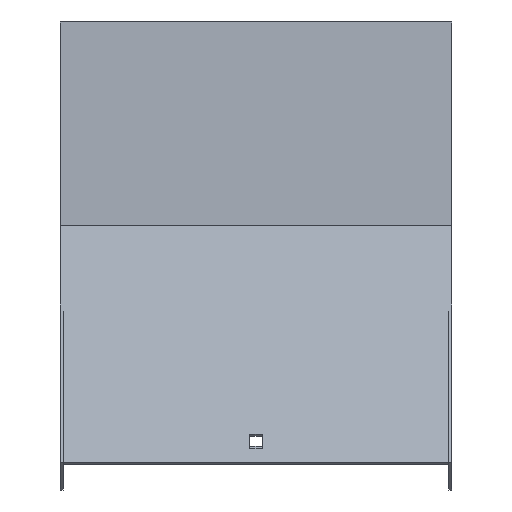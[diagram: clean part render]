
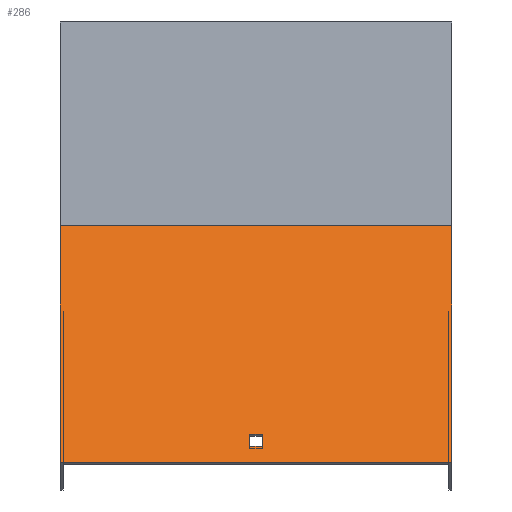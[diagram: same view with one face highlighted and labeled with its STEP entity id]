
A CAD part, top view. The second image highlights one B-rep face of the part: STEP entity #286.
In plain terms, the highlighted planar face has unit normal (0, 0.707, 0.707).
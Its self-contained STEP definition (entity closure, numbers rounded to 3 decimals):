
#20 = CARTESIAN_POINT ( 'NONE',  ( 3.25, -200.523, 544.389 ) ) ;
#26 = DIRECTION ( 'NONE',  ( 0., -0.707, 0.707 ) ) ;
#31 = LINE ( 'NONE', #853, #264 ) ;
#34 = CARTESIAN_POINT ( 'NONE',  ( 101.5, -209.008, 552.874 ) ) ;
#54 = LINE ( 'NONE', #231, #550 ) ;
#65 = VERTEX_POINT ( 'NONE', #758 ) ;
#93 = VECTOR ( 'NONE', #388, 1000. ) ;
#96 = VECTOR ( 'NONE', #851, 1000. ) ;
#115 = EDGE_CURVE ( 'NONE', #65, #757, #288, .T. ) ;
#132 = ORIENTED_EDGE ( 'NONE', *, *, #215, .T. ) ;
#141 = CARTESIAN_POINT ( 'NONE',  ( 101.5, -200.523, 544.389 ) ) ;
#189 = CARTESIAN_POINT ( 'NONE',  ( 101.5, -209.008, 552.874 ) ) ;
#202 = VECTOR ( 'NONE', #628, 1000. ) ;
#215 = EDGE_CURVE ( 'NONE', #723, #699, #296, .T. ) ;
#218 = FACE_BOUND ( 'NONE', #779, .T. ) ;
#227 = PLANE ( 'NONE',  #780 ) ;
#231 = CARTESIAN_POINT ( 'NONE',  ( 101.5, -85.987, 429.853 ) ) ;
#233 = DIRECTION ( 'NONE',  ( 0., -0.707, -0.707 ) ) ;
#257 = ORIENTED_EDGE ( 'NONE', *, *, #280, .T. ) ;
#264 = VECTOR ( 'NONE', #515, 1000. ) ;
#268 = CARTESIAN_POINT ( 'NONE',  ( 3.25, -194.159, 538.025 ) ) ;
#279 = ORIENTED_EDGE ( 'NONE', *, *, #115, .T. ) ;
#280 = EDGE_CURVE ( 'NONE', #757, #778, #424, .T. ) ;
#286 = ADVANCED_FACE ( 'NONE', ( #218, #477 ), #227, .F. ) ;
#287 = VECTOR ( 'NONE', #26, 1000. ) ;
#288 = LINE ( 'NONE', #350, #202 ) ;
#296 = LINE ( 'NONE', #776, #96 ) ;
#321 = CARTESIAN_POINT ( 'NONE',  ( -3.25, -200.523, 544.389 ) ) ;
#334 = CARTESIAN_POINT ( 'NONE',  ( 101.5, -85.987, 429.853 ) ) ;
#338 = EDGE_CURVE ( 'NONE', #787, #723, #54, .T. ) ;
#350 = CARTESIAN_POINT ( 'NONE',  ( 101.5, -194.159, 538.025 ) ) ;
#384 = ORIENTED_EDGE ( 'NONE', *, *, #678, .F. ) ;
#385 = VECTOR ( 'NONE', #660, 1000. ) ;
#388 = DIRECTION ( 'NONE',  ( -1., 0., 0. ) ) ;
#393 = CARTESIAN_POINT ( 'NONE',  ( 101.5, -88.8, 432.666 ) ) ;
#408 = EDGE_CURVE ( 'NONE', #512, #65, #31, .T. ) ;
#411 = CARTESIAN_POINT ( 'NONE',  ( -101.5, -209.008, 552.874 ) ) ;
#418 = CARTESIAN_POINT ( 'NONE',  ( 101.5, -88.8, 432.666 ) ) ;
#424 = LINE ( 'NONE', #612, #287 ) ;
#437 = ORIENTED_EDGE ( 'NONE', *, *, #338, .T. ) ;
#443 = VERTEX_POINT ( 'NONE', #34 ) ;
#450 = DIRECTION ( 'NONE',  ( -1., 0., 0. ) ) ;
#453 = EDGE_LOOP ( 'NONE', ( #132, #704, #384, #437 ) ) ;
#465 = LINE ( 'NONE', #141, #93 ) ;
#477 = FACE_OUTER_BOUND ( 'NONE', #453, .T. ) ;
#484 = DIRECTION ( 'NONE',  ( -1., 0., 0. ) ) ;
#487 = VECTOR ( 'NONE', #450, 1000. ) ;
#512 = VERTEX_POINT ( 'NONE', #321 ) ;
#515 = DIRECTION ( 'NONE',  ( 0., 0.707, -0.707 ) ) ;
#550 = VECTOR ( 'NONE', #484, 1000. ) ;
#592 = LINE ( 'NONE', #393, #385 ) ;
#596 = EDGE_CURVE ( 'NONE', #778, #512, #465, .T. ) ;
#612 = CARTESIAN_POINT ( 'NONE',  ( 3.25, -88.8, 432.666 ) ) ;
#628 = DIRECTION ( 'NONE',  ( 1., 0., 0. ) ) ;
#660 = DIRECTION ( 'NONE',  ( 0., -0.707, 0.707 ) ) ;
#664 = EDGE_CURVE ( 'NONE', #443, #699, #790, .T. ) ;
#678 = EDGE_CURVE ( 'NONE', #787, #443, #592, .T. ) ;
#699 = VERTEX_POINT ( 'NONE', #411 ) ;
#704 = ORIENTED_EDGE ( 'NONE', *, *, #664, .F. ) ;
#723 = VERTEX_POINT ( 'NONE', #802 ) ;
#746 = DIRECTION ( 'NONE',  ( 0., 0.707, -0.707 ) ) ;
#757 = VERTEX_POINT ( 'NONE', #268 ) ;
#758 = CARTESIAN_POINT ( 'NONE',  ( -3.25, -194.159, 538.025 ) ) ;
#764 = ORIENTED_EDGE ( 'NONE', *, *, #596, .T. ) ;
#776 = CARTESIAN_POINT ( 'NONE',  ( -101.5, -88.8, 432.666 ) ) ;
#778 = VERTEX_POINT ( 'NONE', #20 ) ;
#779 = EDGE_LOOP ( 'NONE', ( #279, #257, #764, #834 ) ) ;
#780 = AXIS2_PLACEMENT_3D ( 'NONE', #418, #233, #746 ) ;
#787 = VERTEX_POINT ( 'NONE', #334 ) ;
#790 = LINE ( 'NONE', #189, #487 ) ;
#802 = CARTESIAN_POINT ( 'NONE',  ( -101.5, -85.987, 429.853 ) ) ;
#834 = ORIENTED_EDGE ( 'NONE', *, *, #408, .T. ) ;
#851 = DIRECTION ( 'NONE',  ( 0., -0.707, 0.707 ) ) ;
#853 = CARTESIAN_POINT ( 'NONE',  ( -3.25, -88.8, 432.666 ) ) ;
